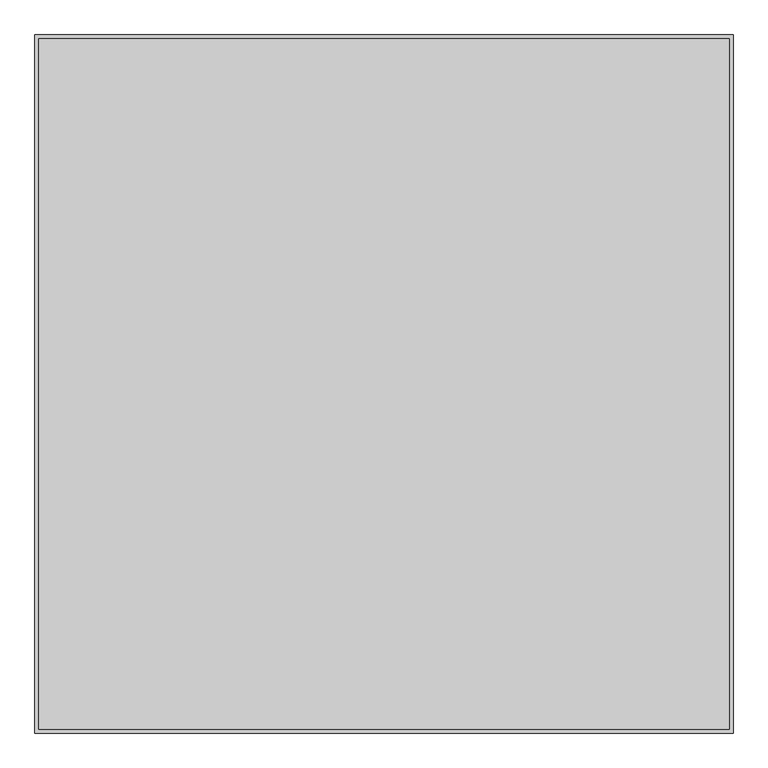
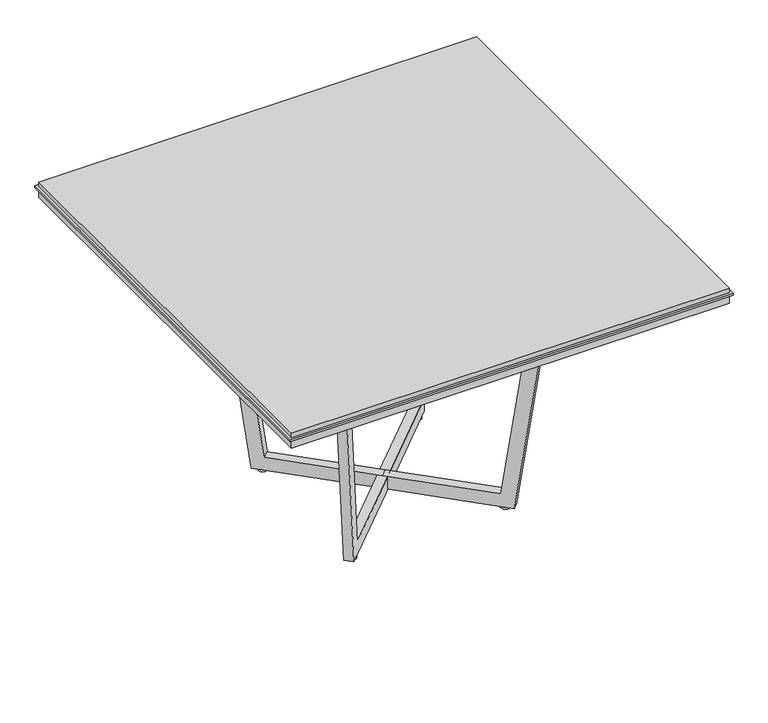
"""IFC4 building model written with IfcOpenShell, lengths in millimetres: furniture geometry, Knoll_Datesweiser_Tables_Meeting_Highline_Square : 48W Corian Open."""

from ifc_helpers import new_model, si_unit, point, frame, frame_2d, origin, origin_with_axes, place, context, project, spatial, polyline, circle_curve, trimmed, segment, composite_curve, outline, extrude, source, transform, mapped, element, save


def furniture_6ba3fecd(model_context):
    return source(origin(), model_context, "Body", "SweptSolid", [
        extrude(outline(polyline([(609.6, 609.6), (609.6, -609.6), (-609.6, -609.6), (-609.6, 609.6), (609.6, 609.6)])), frame((0.0, 0.0, 698.5), z_axis=(0.0, 0.0, 1.0), x_axis=(1.0, 0.0, 0.0)), (0.0, 0.0, 1.0), 25.4),
        extrude(outline(polyline([(609.6, 609.6), (609.6, -609.6), (-609.6, -609.6), (-609.6, 609.6), (609.6, 609.6)])), frame((0.0, 0.0, 730.25), z_axis=(0.0, 0.0, 1.0), x_axis=(1.0, 0.0, 0.0)), (0.0, 0.0, 1.0), 12.7),
        extrude(outline(polyline([(615.95, 615.95), (615.95, -615.95), (-615.95, -615.95), (-615.95, 615.95), (615.95, 615.95)])), frame((0.0, 0.0, 723.9), z_axis=(0.0, 0.0, 1.0), x_axis=(1.0, 0.0, 0.0)), (0.0, 0.0, 1.0), 6.35),
        extrude(outline(composite_curve([segment(trimmed(circle_curve(frame_2d((-214.2640473, -214.2640473)), 12.7), [point((-201.5640473, -214.2640473))], [point((-226.9640473, -214.2640473))], False, "CARTESIAN"), True, "CONTINUOUS"), segment(trimmed(circle_curve(frame_2d((-214.2640473, -214.2640473)), 12.7), [point((-226.9640473, -214.2640473))], [point((-201.5640473, -214.2640473))], False, "CARTESIAN"), True, "CONTINUOUS")], self_intersect=False)), origin_with_axes(), (0.0, 0.0, 1.0), 5.9867797),
        extrude(outline(composite_curve([segment(trimmed(circle_curve(frame_2d((-214.2640473, 214.2640473)), 12.7), [point((-201.5640473, 214.2640473))], [point((-226.9640473, 214.2640473))], False, "CARTESIAN"), True, "CONTINUOUS"), segment(trimmed(circle_curve(frame_2d((-214.2640473, 214.2640473)), 12.7), [point((-226.9640473, 214.2640473))], [point((-201.5640473, 214.2640473))], False, "CARTESIAN"), True, "CONTINUOUS")], self_intersect=False)), origin_with_axes(), (0.0, 0.0, 1.0), 5.9867797),
        extrude(outline(composite_curve([segment(trimmed(circle_curve(frame_2d((214.2640473, -214.2640473)), 12.7), [point((226.9640473, -214.2640473))], [point((201.5640473, -214.2640473))], False, "CARTESIAN"), True, "CONTINUOUS"), segment(trimmed(circle_curve(frame_2d((214.2640473, -214.2640473)), 12.7), [point((201.5640473, -214.2640473))], [point((226.9640473, -214.2640473))], False, "CARTESIAN"), True, "CONTINUOUS")], self_intersect=False)), origin_with_axes(), (0.0, 0.0, 1.0), 5.9867797),
        extrude(outline(composite_curve([segment(trimmed(circle_curve(frame_2d((214.2640473, 214.2640473)), 12.7), [point((226.9640473, 214.2640473))], [point((201.5640473, 214.2640473))], False, "CARTESIAN"), True, "CONTINUOUS"), segment(trimmed(circle_curve(frame_2d((214.2640473, 214.2640473)), 12.7), [point((201.5640473, 214.2640473))], [point((226.9640473, 214.2640473))], False, "CARTESIAN"), True, "CONTINUOUS")], self_intersect=False)), origin_with_axes(), (0.0, 0.0, 1.0), 5.9867797),
        extrude(outline(polyline([(-328.4154116, 0.0), (0.0, 0.0), (96.4293466, -692.6387226), (57.9549435, -692.5888898), (-33.1691487, -38.0570712), (-328.4642085, -37.6745992), (-623.7592682, -37.2921272), (-716.578577, -691.5856987), (-755.0529801, -691.5358658), (-656.8297213, 0.8507388), (-328.4154116, 0.0)])), frame((223.2443137, -241.2048259, 5.9867797), z_axis=(0.7071067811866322, 0.7071067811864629, 0.0), x_axis=(0.7071061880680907, -0.70710618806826, -0.001295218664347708)), (0.0, 0.0, 1.0), 25.4),
        extrude(outline(polyline([(328.4154116, 0.0), (656.8297213, 0.8507388), (755.0529801, -691.5358658), (716.578577, -691.5856987), (623.7592682, -37.2921272), (328.4642085, -37.6745992), (33.1691487, -38.0570712), (-57.9549435, -692.5888898), (-96.4293466, -692.6387226), (0.0, 0.0), (328.4154116, 0.0)])), frame((-223.2443137, -241.2048259, 5.9867797), z_axis=(-0.707106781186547, 0.7071067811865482, 0.0), x_axis=(0.7071061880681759, 0.7071061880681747, 0.001295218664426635)), (0.0, 0.0, 1.0), 25.4),
    ])


if __name__ == "__main__":
    model = new_model("IFC4")
    model_context = context("Model", 3, world=origin())
    ifc_project = project(units=[si_unit("LENGTHUNIT", "METRE", prefix="MILLI")], contexts=[model_context])
    site = spatial("IfcSite", under=ifc_project)
    building = spatial("IfcBuilding", under=site)
    placement = place(None, origin())
    furniture_shape = furniture_6ba3fecd(model_context)
    element("IfcFurniture", 1, ObjectType="Knoll_Datesweiser_Tables_Meeting_Highline_Square : 48W Corian Open", at=placement, inside=building, context=model_context, shape_type="MappedRepresentation", body=[
        mapped(furniture_shape, transform((0.0, 0.0, 0.0), x_axis=(1.0, 0.0, 0.0), y_axis=(0.0, 1.0, 0.0), z_axis=(0.0, 0.0, 1.0))),
    ])
    save(model, "model.ifc")
